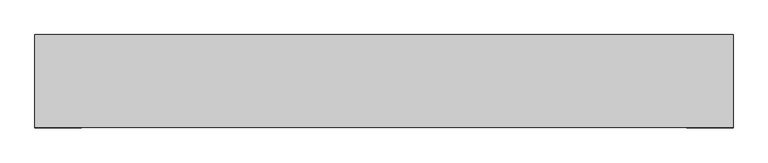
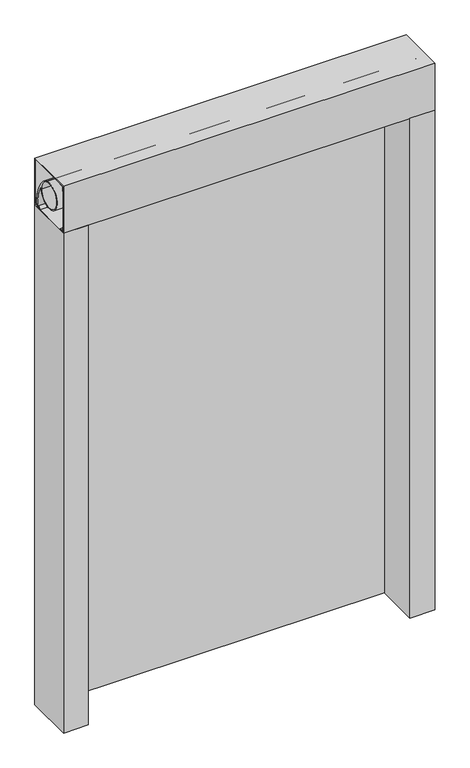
"""IFC4 building model written with IfcOpenShell, lengths in millimetres: proxy geometry, וילון אש צמוד קיר : וילון אש צמוד קיר."""

from ifc_helpers import new_model, si_unit, point, frame, frame_2d, origin, origin_with_axes, place, context, project, spatial, polyline, circle_curve, trimmed, segment, composite_curve, outline, extrude, source, transform, mapped, element, save


def generic_models_d5eb54bd(model_context):
    return source(origin(), model_context, "Body", "SweptSolid", [
        extrude(outline(polyline([(100.0, 0.0), (0.0, 0.0), (0.0, 200.0), (100.0, 200.0), (100.0, 0.0)])), origin_with_axes(), (0.0, 0.0, 1.0), 2132.0),
        extrude(outline(polyline([(1500.0, 0.0), (1400.0618321, 0.0), (1400.0618321, 200.0), (1500.0, 200.0), (1500.0, 0.0)])), origin_with_axes(), (0.0, 0.0, 1.0), 2132.0),
        extrude(outline(polyline([(1400.0618321, 184.0192575), (1400.0618321, 178.9624948), (100.0, 178.9624948), (100.0, 184.0192575), (1400.0618321, 184.0192575)])), origin_with_axes(), (0.0, 0.0, 1.0), 2132.0),
        extrude(outline(polyline([(200.0, 2332.0), (200.0, 2132.0), (189.3933983, 2142.6066017), (190.8076118, 2144.0208153), (198.0, 2136.8284271), (198.0, 2330.0), (2.0, 2330.0), (2.0, 2134.0), (164.1715729, 2134.0), (174.1923882, 2144.0208153), (175.6066017, 2142.6066017), (165.0, 2132.0), (0.0, 2132.0), (0.0, 2332.0), (200.0, 2332.0)])), frame((0.0, 0.0, 0.0), z_axis=(1.0, 0.0, 0.0), x_axis=(0.0, 1.0, 0.0)), (0.0, 0.0, 1.0), 1500.0),
        extrude(outline(polyline([(2.7195991, 2309.3307098), (2.7195991, 2329.3307098), (22.7195991, 2329.3307098), (22.7195991, 2327.3307098), (4.7195991, 2327.3307098), (4.7195991, 2309.3307098), (2.7195991, 2309.3307098)])), frame((0.0, 0.0, 0.0), z_axis=(1.0, 0.0, 0.0), x_axis=(0.0, 1.0, 0.0)), (0.0, 0.0, 1.0), 1500.0),
        extrude(outline(polyline([(2.7195991, 2154.6692902), (4.7195991, 2154.6692902), (4.7195991, 2136.6692902), (22.7195991, 2136.6692902), (22.7195991, 2134.6692902), (2.7195991, 2134.6692902), (2.7195991, 2154.6692902)])), frame((0.0, 0.0, 0.0), z_axis=(1.0, 0.0, 0.0), x_axis=(0.0, 1.0, 0.0)), (0.0, 0.0, 1.0), 1500.0),
        extrude(outline(composite_curve([segment(trimmed(circle_curve(frame_2d((100.0, 2232.0)), 55.0), [point((153.3458963, 2245.3871335))], [point((139.9794591, 2269.7709259))], False, "CARTESIAN"), True, "CONTINUOUS"), segment(trimmed(circle_curve(frame_2d((21.9220769, 2156.108421)), 163.8801713), [point((139.9794591, 2269.7709259))], [point((184.0192532, 2132.0))], False, "CARTESIAN"), True, "CONTINUOUS"), segment(polyline([(184.0192532, 2132.0), (178.9624948, 2132.0)]), True, "CONTINUOUS"), segment(trimmed(circle_curve(frame_2d((21.9220769, 2156.108421)), 158.8801713), [point((178.9624948, 2132.0))], [point((153.3458963, 2245.3871335))], True, "CARTESIAN"), True, "CONTINUOUS")], self_intersect=False), holes=[composite_curve([segment(trimmed(circle_curve(frame_2d((100.0, 2232.0)), 50.0), [point((50.0, 2232.0))], [point((150.0, 2232.0))], True, "CARTESIAN"), True, "CONTINUOUS"), segment(trimmed(circle_curve(frame_2d((100.0, 2232.0)), 50.0), [point((150.0, 2232.0))], [point((50.0, 2232.0))], True, "CARTESIAN"), True, "CONTINUOUS")], self_intersect=False)]), frame((0.0, 0.0, 0.0), z_axis=(1.0, 0.0, 0.0), x_axis=(0.0, 1.0, 0.0)), (0.0, 0.0, 1.0), 1500.0),
    ])


if __name__ == "__main__":
    model = new_model("IFC4")
    model_context = context("Model", 3, world=origin())
    ifc_project = project(units=[si_unit("LENGTHUNIT", "METRE", prefix="MILLI")], contexts=[model_context])
    site = spatial("IfcSite", under=ifc_project)
    building = spatial("IfcBuilding", under=site)
    placement = place(None, origin())
    generic_models_shape = generic_models_d5eb54bd(model_context)
    element("IfcBuildingElementProxy", 1, Name="וילון אש צמוד קיר : וילון אש צמוד קיר", ObjectType="וילון אש צמוד קיר : וילון אש צמוד קיר", at=placement, inside=building, context=model_context, shape_type="MappedRepresentation", body=[
        mapped(generic_models_shape, transform((0.0, 0.0, 0.0), x_axis=(1.0, 0.0, 0.0), y_axis=(0.0, 1.0, 0.0), z_axis=(0.0, 0.0, 1.0))),
    ])
    save(model, "model.ifc")
